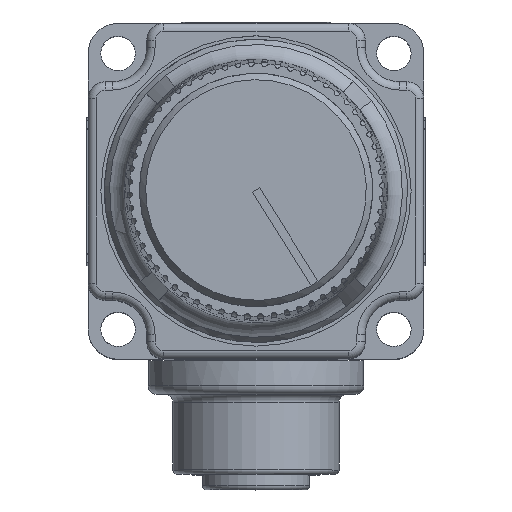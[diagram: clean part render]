
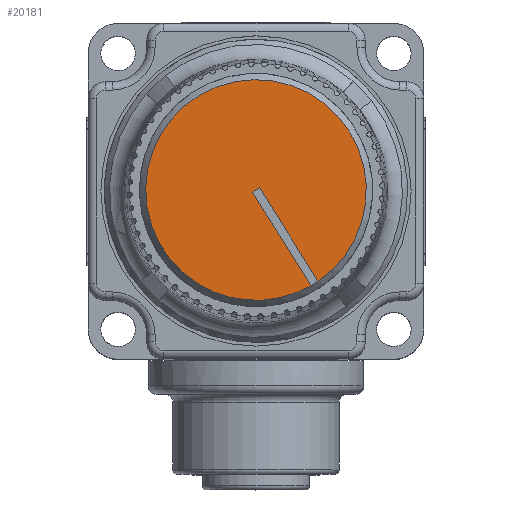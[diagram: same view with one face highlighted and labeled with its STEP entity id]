
A CAD part, top view. The second image highlights one B-rep face of the part: STEP entity #20181.
In plain terms, the highlighted planar face has unit normal (0, 0, 1).
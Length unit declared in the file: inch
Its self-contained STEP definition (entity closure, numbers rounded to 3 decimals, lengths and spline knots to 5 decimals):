
#2155=LINE('',#39224,#3568);
#2160=LINE('',#39243,#3573);
#2163=LINE('',#39248,#3576);
#3568=VECTOR('',#26894,0.3937);
#3573=VECTOR('',#26905,0.3937);
#3576=VECTOR('',#26910,0.3937);
#4898=FACE_OUTER_BOUND('',#6102,.T.);
#6102=EDGE_LOOP('',(#16376,#16377,#16378,#16379,#16380));
#6989=CIRCLE('',#22088,0.4);
#6990=CIRCLE('',#22089,0.4);
#8716=VERTEX_POINT('',#39222);
#8717=VERTEX_POINT('',#39223);
#8720=VERTEX_POINT('',#39236);
#8722=VERTEX_POINT('',#39242);
#8724=VERTEX_POINT('',#39252);
#11314=EDGE_CURVE('',#8716,#8717,#2155,.T.);
#11321=EDGE_CURVE('',#8722,#8720,#2160,.T.);
#11324=EDGE_CURVE('',#8717,#8722,#2163,.T.);
#11326=EDGE_CURVE('',#8720,#8724,#6989,.T.);
#11327=EDGE_CURVE('',#8724,#8716,#6990,.T.);
#16376=ORIENTED_EDGE('',*,*,#11321,.T.);
#16377=ORIENTED_EDGE('',*,*,#11326,.T.);
#16378=ORIENTED_EDGE('',*,*,#11327,.T.);
#16379=ORIENTED_EDGE('',*,*,#11314,.T.);
#16380=ORIENTED_EDGE('',*,*,#11324,.T.);
#18106=PLANE('',#22092);
#20181=ADVANCED_FACE('',(#4898),#18106,.T.);
#22088=AXIS2_PLACEMENT_3D('',#39253,#26916,#26917);
#22089=AXIS2_PLACEMENT_3D('',#39254,#26918,#26919);
#22092=AXIS2_PLACEMENT_3D('',#39260,#26925,#26926);
#26894=DIRECTION('',(-0.532,0.847,0.));
#26905=DIRECTION('',(0.532,-0.847,0.));
#26910=DIRECTION('',(0.847,0.532,0.));
#26916=DIRECTION('center_axis',(0.,0.,1.));
#26917=DIRECTION('ref_axis',(0.847,0.532,0.));
#26918=DIRECTION('center_axis',(0.,0.,1.));
#26919=DIRECTION('ref_axis',(0.847,0.532,0.));
#26925=DIRECTION('center_axis',(0.,0.,1.));
#26926=DIRECTION('ref_axis',(1.,0.,0.));
#39222=CARTESIAN_POINT('',(0.30228,-0.19216,1.8705));
#39223=CARTESIAN_POINT('',(0.0898,0.1464,1.8705));
#39224=CARTESIAN_POINT('',(0.30228,-0.19216,1.8705));
#39236=CARTESIAN_POINT('',(0.32769,-0.17622,1.8705));
#39242=CARTESIAN_POINT('',(0.11521,0.16234,1.8705));
#39243=CARTESIAN_POINT('',(0.11521,0.16234,1.8705));
#39248=CARTESIAN_POINT('',(0.0898,0.1464,1.8705));
#39252=CARTESIAN_POINT('',(-0.04966,-0.21556,1.8705));
#39253=CARTESIAN_POINT('Origin',(0.1025,0.15437,1.8705));
#39254=CARTESIAN_POINT('Origin',(0.1025,0.15437,1.8705));
#39260=CARTESIAN_POINT('Origin',(-0.24627,-0.06147,
1.8705));
